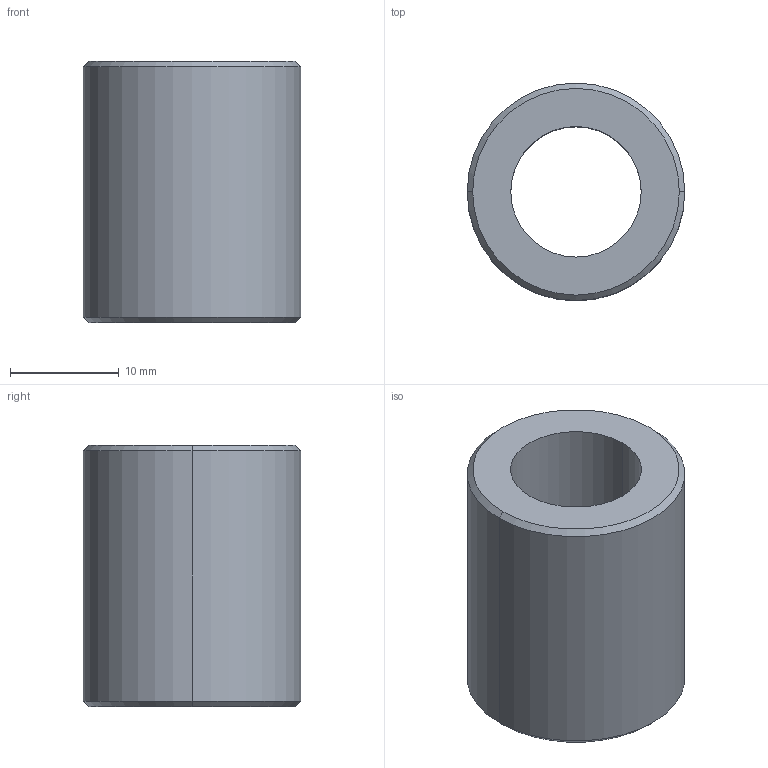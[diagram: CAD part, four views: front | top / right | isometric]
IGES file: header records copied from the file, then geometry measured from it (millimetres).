
Start section: 3D InterOp IGES (Version 21 0 1), Spatial Corp. Copyright (c) 1999-2007.
Global section: file name: DB-12.igs; native system: Spatial Corp.; preprocessor: 3D InterOp GENERIC/IGES 3.0; author: Noname; organization: Noname; date: 20220208.162909; units: millimetre
Bounding box: 20 x 20 x 24 mm (x, y, z)
Surface area: 2777.4 mm2 (no closed solid volume)
Topology: 0 solids, 0 shells, 10 faces, 40 edges, 40 vertices
Faces by surface type: revolution 8, extrusion 2
